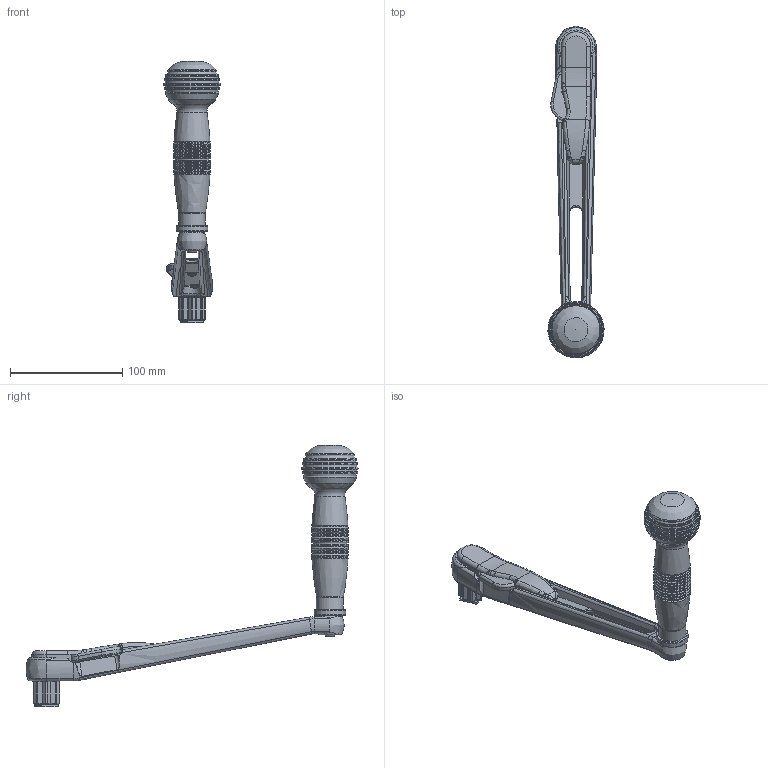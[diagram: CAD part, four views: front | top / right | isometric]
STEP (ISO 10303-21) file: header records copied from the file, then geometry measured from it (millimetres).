
FILE_DESCRIPTION(/* description */ (''),/* implementation_level */ '2;1');
FILE_NAME(/* name */ '\\SERVER2K12\Disegni CAD\Cad Library\3D - STP\Winches\2122.stp',/* time_stamp */ '2019-11-05T09:48:47+01:00',/* author */ ('gianni'),/* organization */ (''),/* preprocessor_version */ 'ST-DEVELOPER v16.5',/* originating_system */ 'Autodesk Inventor 2017',/* authorisation */ '');
FILE_SCHEMA (('CONFIG_CONTROL_DESIGN'));
Length unit declared in the file: millimetre
Products named in the file (1): 19110500
Bounding box: 49.92 x 295.2 x 232.88 mm (x, y, z)
Volume: 272368.9 mm3; surface area: 53000.6 mm2
Topology: 1 solids, 7 shells, 467 faces, 1120 edges, 685 vertices
Faces by surface type: plane 131, cylinder 120, torus 89, bspline 69, sphere 32, cone 26
Full cylindrical faces by diameter (mm): 4.2 x2, 4.5 x2, 6.5 x2, 10 x1, 24 x1, 28.4 x1
Entity records: 15214 total; most frequent: CARTESIAN_POINT 4928, DIRECTION 2225, ORIENTED_EDGE 2038, EDGE_CURVE 1019, AXIS2_PLACEMENT_3D 973, VERTEX_POINT 670, EDGE_LOOP 577, CIRCLE 488
